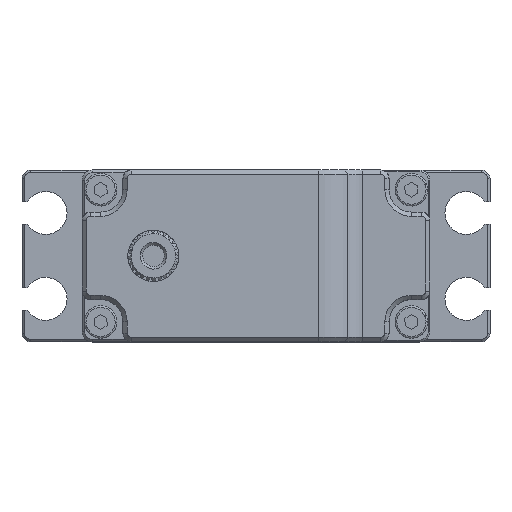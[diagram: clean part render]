
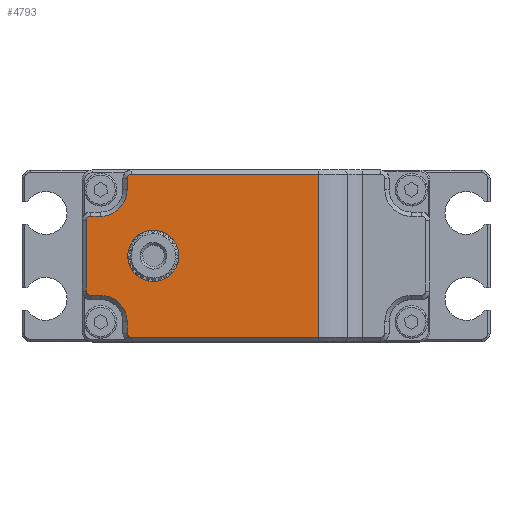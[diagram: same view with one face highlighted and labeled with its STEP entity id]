
A CAD part, top view. The second image highlights one B-rep face of the part: STEP entity #4793.
In plain terms, the highlighted planar face has unit normal (0, 0, 1).
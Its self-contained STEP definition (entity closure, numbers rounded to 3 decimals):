
#225 = ORIENTED_EDGE ( 'NONE', *, *, #4917, .T. ) ;
#316 = LINE ( 'NONE', #17499, #1228 ) ;
#408 = CIRCLE ( 'NONE', #11411, 2.98 ) ;
#858 = ORIENTED_EDGE ( 'NONE', *, *, #8274, .T. ) ;
#1095 = VERTEX_POINT ( 'NONE', #5150 ) ;
#1153 = CARTESIAN_POINT ( 'NONE',  ( -69.755, -5.289, 12.3 ) ) ;
#1228 = VECTOR ( 'NONE', #4193, 1000. ) ;
#1254 = CARTESIAN_POINT ( 'NONE',  ( -74.005, 7.011, 12.3 ) ) ;
#1329 = CARTESIAN_POINT ( 'NONE',  ( -74.505, 6.511, 12.3 ) ) ;
#1439 = ORIENTED_EDGE ( 'NONE', *, *, #14665, .T. ) ;
#1445 = VECTOR ( 'NONE', #8359, 1000. ) ;
#1652 = DIRECTION ( 'NONE',  ( -1., 0., 0. ) ) ;
#1695 = ORIENTED_EDGE ( 'NONE', *, *, #18958, .T. ) ;
#1802 = CARTESIAN_POINT ( 'NONE',  ( -47.455, -7.089, 12.3 ) ) ;
#2049 = EDGE_LOOP ( 'NONE', ( #858, #15562 ) ) ;
#2265 = EDGE_CURVE ( 'NONE', #14529, #18861, #9673, .T. ) ;
#2354 = LINE ( 'NONE', #8483, #1445 ) ;
#2363 = DIRECTION ( 'NONE',  ( 0., -1., 0. ) ) ;
#2376 = CARTESIAN_POINT ( 'NONE',  ( -69.755, 10.111, 12.3 ) ) ;
#2479 = CARTESIAN_POINT ( 'NONE',  ( -47.455, -7.089, 12.3 ) ) ;
#2512 = VERTEX_POINT ( 'NONE', #13909 ) ;
#2720 = VERTEX_POINT ( 'NONE', #1254 ) ;
#2783 = VECTOR ( 'NONE', #7797, 1000. ) ;
#2887 = DIRECTION ( 'NONE',  ( 0., -1., 0. ) ) ;
#3236 = DIRECTION ( 'NONE',  ( 1., 0., 0. ) ) ;
#3752 = DIRECTION ( 'NONE',  ( 1., 0., 0. ) ) ;
#3771 = DIRECTION ( 'NONE',  ( 0., 1., 0. ) ) ;
#4096 = CIRCLE ( 'NONE', #14756, 0.5 ) ;
#4193 = DIRECTION ( 'NONE',  ( -1., 0., 0. ) ) ;
#4233 = DIRECTION ( 'NONE',  ( 1., 0., 0. ) ) ;
#4339 = DIRECTION ( 'NONE',  ( 0., 0., -1. ) ) ;
#4654 = CARTESIAN_POINT ( 'NONE',  ( -72.855, -2.189, 12.3 ) ) ;
#4793 = ADVANCED_FACE ( 'NONE', ( #9293, #17126 ), #14707, .T. ) ;
#4917 = EDGE_CURVE ( 'NONE', #18861, #18197, #8344, .T. ) ;
#5025 = DIRECTION ( 'NONE',  ( 0., 0., 1. ) ) ;
#5150 = CARTESIAN_POINT ( 'NONE',  ( -69.255, 11.911, 12.3 ) ) ;
#5273 = CARTESIAN_POINT ( 'NONE',  ( -63.725, 2.411, 12.3 ) ) ;
#5694 = VERTEX_POINT ( 'NONE', #10254 ) ;
#5751 = VECTOR ( 'NONE', #2363, 1000. ) ;
#5942 = CARTESIAN_POINT ( 'NONE',  ( -72.855, 7.011, 12.3 ) ) ;
#5955 = EDGE_CURVE ( 'NONE', #13957, #18292, #10340, .T. ) ;
#6186 = DIRECTION ( 'NONE',  ( 1., 0., 0. ) ) ;
#6437 = CIRCLE ( 'NONE', #18173, 0.5 ) ;
#6444 = CARTESIAN_POINT ( 'NONE',  ( -69.255, -7.089, 12.3 ) ) ;
#6543 = CARTESIAN_POINT ( 'NONE',  ( -74.005, -2.189, 12.3 ) ) ;
#6582 = CARTESIAN_POINT ( 'NONE',  ( -69.755, -5.289, 12.3 ) ) ;
#6625 = CIRCLE ( 'NONE', #7778, 2.98 ) ;
#6829 = EDGE_LOOP ( 'NONE', ( #225, #13591, #15029, #9252, #8748, #15537, #17145, #15226, #8817, #1695, #14969, #1439, #17338, #7958 ) ) ;
#7451 = VERTEX_POINT ( 'NONE', #4654 ) ;
#7543 = VERTEX_POINT ( 'NONE', #5273 ) ;
#7618 = AXIS2_PLACEMENT_3D ( 'NONE', #9265, #15435, #16928 ) ;
#7778 = AXIS2_PLACEMENT_3D ( 'NONE', #13113, #4339, #17901 ) ;
#7797 = DIRECTION ( 'NONE',  ( 1., 0., 0. ) ) ;
#7942 = AXIS2_PLACEMENT_3D ( 'NONE', #18341, #8114, #3752 ) ;
#7946 = CARTESIAN_POINT ( 'NONE',  ( -47.455, 12.411, 12.3 ) ) ;
#7958 = ORIENTED_EDGE ( 'NONE', *, *, #2265, .T. ) ;
#8114 = DIRECTION ( 'NONE',  ( 0., 0., -1. ) ) ;
#8274 = EDGE_CURVE ( 'NONE', #7543, #18796, #6625, .T. ) ;
#8344 = LINE ( 'NONE', #7946, #16193 ) ;
#8359 = DIRECTION ( 'NONE',  ( 1., 0., 0. ) ) ;
#8371 = EDGE_CURVE ( 'NONE', #9233, #2720, #9596, .T. ) ;
#8483 = CARTESIAN_POINT ( 'NONE',  ( -72.855, -2.189, 12.3 ) ) ;
#8580 = DIRECTION ( 'NONE',  ( 0., 0., -1. ) ) ;
#8748 = ORIENTED_EDGE ( 'NONE', *, *, #18745, .T. ) ;
#8817 = ORIENTED_EDGE ( 'NONE', *, *, #15948, .T. ) ;
#8913 = DIRECTION ( 'NONE',  ( 0., 0., 1. ) ) ;
#9233 = VERTEX_POINT ( 'NONE', #9324 ) ;
#9252 = ORIENTED_EDGE ( 'NONE', *, *, #13441, .T. ) ;
#9253 = LINE ( 'NONE', #6582, #16651 ) ;
#9265 = CARTESIAN_POINT ( 'NONE',  ( -72.855, -5.289, 12.3 ) ) ;
#9293 = FACE_OUTER_BOUND ( 'NONE', #6829, .T. ) ;
#9324 = CARTESIAN_POINT ( 'NONE',  ( -72.855, 7.011, 12.3 ) ) ;
#9588 = VECTOR ( 'NONE', #2887, 1000. ) ;
#9596 = LINE ( 'NONE', #5942, #14204 ) ;
#9673 = LINE ( 'NONE', #1802, #2783 ) ;
#9679 = CARTESIAN_POINT ( 'NONE',  ( -74.505, -1.689, 12.3 ) ) ;
#9872 = AXIS2_PLACEMENT_3D ( 'NONE', #12218, #13585, #3236 ) ;
#10254 = CARTESIAN_POINT ( 'NONE',  ( -69.755, -5.289, 12.3 ) ) ;
#10340 = LINE ( 'NONE', #17076, #5751 ) ;
#10805 = CARTESIAN_POINT ( 'NONE',  ( -69.255, 11.411, 12.3 ) ) ;
#11032 = VERTEX_POINT ( 'NONE', #6543 ) ;
#11056 = CARTESIAN_POINT ( 'NONE',  ( -69.685, 2.411, 12.3 ) ) ;
#11377 = AXIS2_PLACEMENT_3D ( 'NONE', #13417, #8913, #13553 ) ;
#11411 = AXIS2_PLACEMENT_3D ( 'NONE', #17404, #8580, #4233 ) ;
#11436 = EDGE_CURVE ( 'NONE', #1095, #18482, #18200, .T. ) ;
#11912 = EDGE_CURVE ( 'NONE', #2512, #14529, #6437, .T. ) ;
#12218 = CARTESIAN_POINT ( 'NONE',  ( -74.005, -1.689, 12.3 ) ) ;
#12328 = CARTESIAN_POINT ( 'NONE',  ( -74.005, 6.511, 12.3 ) ) ;
#12701 = DIRECTION ( 'NONE',  ( 0., -1., 0. ) ) ;
#13113 = CARTESIAN_POINT ( 'NONE',  ( -66.705, 2.411, 12.3 ) ) ;
#13141 = EDGE_CURVE ( 'NONE', #2720, #13957, #4096, .T. ) ;
#13417 = CARTESIAN_POINT ( 'NONE',  ( -72.855, -5.289, 12.3 ) ) ;
#13441 = EDGE_CURVE ( 'NONE', #18482, #15071, #18115, .T. ) ;
#13466 = EDGE_CURVE ( 'NONE', #18796, #7543, #408, .T. ) ;
#13500 = CARTESIAN_POINT ( 'NONE',  ( -69.255, -6.589, 12.3 ) ) ;
#13544 = CARTESIAN_POINT ( 'NONE',  ( -47.455, 11.911, 12.3 ) ) ;
#13553 = DIRECTION ( 'NONE',  ( 1., 0., 0. ) ) ;
#13585 = DIRECTION ( 'NONE',  ( 0., 0., 1. ) ) ;
#13591 = ORIENTED_EDGE ( 'NONE', *, *, #16800, .T. ) ;
#13768 = DIRECTION ( 'NONE',  ( 1., 0., 0. ) ) ;
#13909 = CARTESIAN_POINT ( 'NONE',  ( -69.755, -6.589, 12.3 ) ) ;
#13957 = VERTEX_POINT ( 'NONE', #1329 ) ;
#14109 = CIRCLE ( 'NONE', #7618, 3.1 ) ;
#14204 = VECTOR ( 'NONE', #1652, 1000. ) ;
#14257 = EDGE_CURVE ( 'NONE', #7451, #5694, #14109, .T. ) ;
#14529 = VERTEX_POINT ( 'NONE', #6444 ) ;
#14665 = EDGE_CURVE ( 'NONE', #5694, #2512, #9253, .T. ) ;
#14707 = PLANE ( 'NONE',  #11377 ) ;
#14756 = AXIS2_PLACEMENT_3D ( 'NONE', #12328, #5025, #15348 ) ;
#14933 = AXIS2_PLACEMENT_3D ( 'NONE', #10805, #18159, #13768 ) ;
#14958 = DIRECTION ( 'NONE',  ( 0., 0., 1. ) ) ;
#14969 = ORIENTED_EDGE ( 'NONE', *, *, #14257, .T. ) ;
#15029 = ORIENTED_EDGE ( 'NONE', *, *, #11436, .T. ) ;
#15071 = VERTEX_POINT ( 'NONE', #2376 ) ;
#15226 = ORIENTED_EDGE ( 'NONE', *, *, #5955, .T. ) ;
#15348 = DIRECTION ( 'NONE',  ( 1., 0., 0. ) ) ;
#15435 = DIRECTION ( 'NONE',  ( 0., 0., -1. ) ) ;
#15537 = ORIENTED_EDGE ( 'NONE', *, *, #8371, .T. ) ;
#15562 = ORIENTED_EDGE ( 'NONE', *, *, #13466, .T. ) ;
#15948 = EDGE_CURVE ( 'NONE', #18292, #11032, #18314, .T. ) ;
#16038 = CARTESIAN_POINT ( 'NONE',  ( -69.755, 11.411, 12.3 ) ) ;
#16193 = VECTOR ( 'NONE', #3771, 1000. ) ;
#16406 = CIRCLE ( 'NONE', #7942, 3.1 ) ;
#16651 = VECTOR ( 'NONE', #12701, 1000. ) ;
#16800 = EDGE_CURVE ( 'NONE', #18197, #1095, #316, .T. ) ;
#16928 = DIRECTION ( 'NONE',  ( 1., 0., 0. ) ) ;
#17076 = CARTESIAN_POINT ( 'NONE',  ( -74.505, -1.689, 12.3 ) ) ;
#17126 = FACE_BOUND ( 'NONE', #2049, .T. ) ;
#17145 = ORIENTED_EDGE ( 'NONE', *, *, #13141, .T. ) ;
#17338 = ORIENTED_EDGE ( 'NONE', *, *, #11912, .T. ) ;
#17404 = CARTESIAN_POINT ( 'NONE',  ( -66.705, 2.411, 12.3 ) ) ;
#17499 = CARTESIAN_POINT ( 'NONE',  ( -69.255, 11.911, 12.3 ) ) ;
#17901 = DIRECTION ( 'NONE',  ( 1., 0., 0. ) ) ;
#18115 = LINE ( 'NONE', #1153, #9588 ) ;
#18159 = DIRECTION ( 'NONE',  ( 0., 0., 1. ) ) ;
#18173 = AXIS2_PLACEMENT_3D ( 'NONE', #13500, #14958, #6186 ) ;
#18197 = VERTEX_POINT ( 'NONE', #13544 ) ;
#18200 = CIRCLE ( 'NONE', #14933, 0.5 ) ;
#18292 = VERTEX_POINT ( 'NONE', #9679 ) ;
#18314 = CIRCLE ( 'NONE', #9872, 0.5 ) ;
#18341 = CARTESIAN_POINT ( 'NONE',  ( -72.855, 10.111, 12.3 ) ) ;
#18482 = VERTEX_POINT ( 'NONE', #16038 ) ;
#18745 = EDGE_CURVE ( 'NONE', #15071, #9233, #16406, .T. ) ;
#18796 = VERTEX_POINT ( 'NONE', #11056 ) ;
#18861 = VERTEX_POINT ( 'NONE', #2479 ) ;
#18958 = EDGE_CURVE ( 'NONE', #11032, #7451, #2354, .T. ) ;
